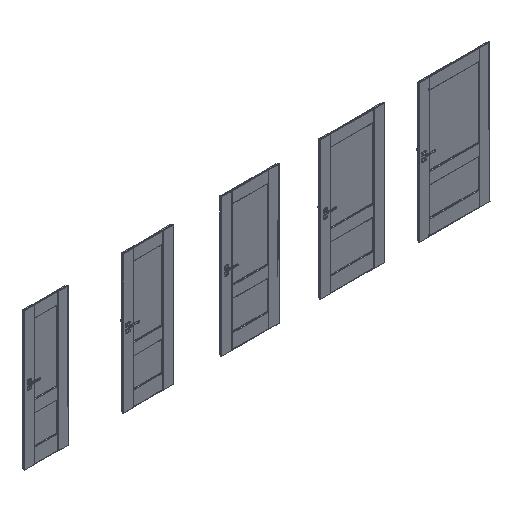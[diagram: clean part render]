
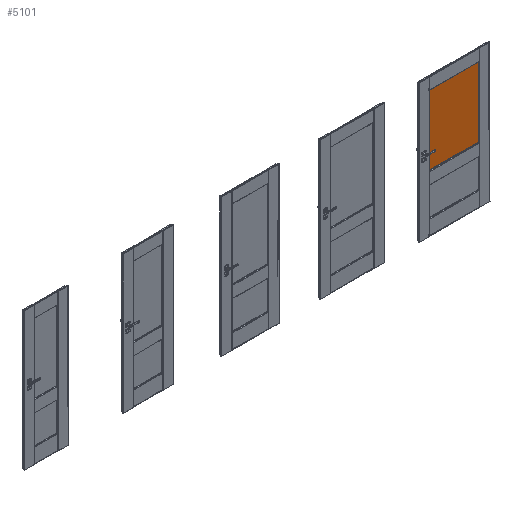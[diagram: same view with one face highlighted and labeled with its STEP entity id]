
A CAD part, isometric view. The second image highlights one B-rep face of the part: STEP entity #5101.
In plain terms, the highlighted planar face has unit normal (0, -1, 0).
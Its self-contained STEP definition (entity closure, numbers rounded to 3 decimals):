
#3231=FACE_OUTER_BOUND('',#9601,.T.);
#5101=ADVANCED_FACE('',(#3231),#6172,.T.);
#6172=PLANE('',#37547);
#9601=EDGE_LOOP('',(#19348,#19349,#19350,#19351,#19352,#19353,#19354,#19355,
#19356,#19357,#19358,#19359));
#19348=ORIENTED_EDGE('',*,*,#27818,.T.);
#19349=ORIENTED_EDGE('',*,*,#27819,.F.);
#19350=ORIENTED_EDGE('',*,*,#27820,.T.);
#19351=ORIENTED_EDGE('',*,*,#27518,.F.);
#19352=ORIENTED_EDGE('',*,*,#27396,.T.);
#19353=ORIENTED_EDGE('',*,*,#27815,.T.);
#19354=ORIENTED_EDGE('',*,*,#27821,.T.);
#19355=ORIENTED_EDGE('',*,*,#27822,.T.);
#19356=ORIENTED_EDGE('',*,*,#27823,.T.);
#19357=ORIENTED_EDGE('',*,*,#27443,.T.);
#19358=ORIENTED_EDGE('',*,*,#27492,.F.);
#19359=ORIENTED_EDGE('',*,*,#27520,.F.);
#22572=VERTEX_POINT('',#63489);
#22573=VERTEX_POINT('',#63491);
#22615=VERTEX_POINT('',#63580);
#22617=VERTEX_POINT('',#63584);
#22662=VERTEX_POINT('',#63685);
#22679=VERTEX_POINT('',#63730);
#22680=VERTEX_POINT('',#63735);
#22851=VERTEX_POINT('',#64415);
#22853=VERTEX_POINT('',#64423);
#22854=VERTEX_POINT('',#64425);
#22855=VERTEX_POINT('',#64428);
#22856=VERTEX_POINT('',#64430);
#27396=EDGE_CURVE('',#22573,#22572,#30855,.T.);
#27443=EDGE_CURVE('',#22615,#22617,#30882,.T.);
#27492=EDGE_CURVE('',#22662,#22617,#30916,.T.);
#27518=EDGE_CURVE('',#22573,#22679,#30932,.T.);
#27520=EDGE_CURVE('',#22680,#22662,#30934,.T.);
#27815=EDGE_CURVE('',#22572,#22851,#31153,.T.);
#27818=EDGE_CURVE('',#22680,#22853,#31156,.T.);
#27819=EDGE_CURVE('',#22854,#22853,#31157,.T.);
#27820=EDGE_CURVE('',#22854,#22679,#31158,.T.);
#27821=EDGE_CURVE('',#22851,#22855,#31159,.T.);
#27822=EDGE_CURVE('',#22855,#22856,#31160,.T.);
#27823=EDGE_CURVE('',#22856,#22615,#31161,.T.);
#30855=LINE('',#63490,#34175);
#30882=LINE('',#63585,#34202);
#30916=LINE('',#63686,#34236);
#30932=LINE('',#63732,#34252);
#30934=LINE('',#63737,#34254);
#31153=LINE('',#64416,#34473);
#31156=LINE('',#64422,#34476);
#31157=LINE('',#64424,#34477);
#31158=LINE('',#64426,#34478);
#31159=LINE('',#64427,#34479);
#31160=LINE('',#64429,#34480);
#31161=LINE('',#64431,#34481);
#34175=VECTOR('',#46016,1.);
#34202=VECTOR('',#46089,1.);
#34236=VECTOR('',#46167,1.);
#34252=VECTOR('',#46209,1.);
#34254=VECTOR('',#46213,1.);
#34473=VECTOR('',#46784,1.);
#34476=VECTOR('',#46791,1.);
#34477=VECTOR('',#46792,1.);
#34478=VECTOR('',#46793,1.);
#34479=VECTOR('',#46794,1.);
#34480=VECTOR('',#46795,1.);
#34481=VECTOR('',#46796,1.);
#37547=AXIS2_PLACEMENT_3D('',#64432,#46797,#46798);
#46016=DIRECTION('',(0.,0.,-1.));
#46089=DIRECTION('',(1.,0.,0.));
#46167=DIRECTION('',(0.,0.,-1.));
#46209=DIRECTION('',(1.,0.,0.));
#46213=DIRECTION('',(1.,0.,0.));
#46784=DIRECTION('',(1.,0.,0.));
#46791=DIRECTION('',(0.,0.,-1.));
#46792=DIRECTION('',(1.,0.,0.));
#46793=DIRECTION('',(0.,0.,1.));
#46794=DIRECTION('',(0.,0.,1.));
#46795=DIRECTION('',(1.,0.,0.));
#46796=DIRECTION('',(0.,0.,-1.));
#46797=DIRECTION('',(0.,-1.,0.));
#46798=DIRECTION('',(0.,0.,-1.));
#63489=CARTESIAN_POINT('',(5629.997,-23.15,816.5));
#63490=CARTESIAN_POINT('',(5629.997,-23.15,0.));
#63491=CARTESIAN_POINT('',(5629.997,-23.15,1866.5));
#63580=CARTESIAN_POINT('',(6369.5,-23.15,816.5));
#63584=CARTESIAN_POINT('',(6370.003,-23.15,816.5));
#63585=CARTESIAN_POINT('',(6017.5,-23.15,816.5));
#63685=CARTESIAN_POINT('',(6370.003,-23.15,1866.5));
#63686=CARTESIAN_POINT('',(6370.003,-23.15,0.));
#63730=CARTESIAN_POINT('',(5630.5,-23.15,1866.5));
#63732=CARTESIAN_POINT('',(5617.5,-23.15,1866.5));
#63735=CARTESIAN_POINT('',(6369.5,-23.15,1866.5));
#63737=CARTESIAN_POINT('',(6017.5,-23.15,1866.5));
#64415=CARTESIAN_POINT('',(5630.5,-23.15,816.5));
#64416=CARTESIAN_POINT('',(5617.5,-23.15,816.5));
#64422=CARTESIAN_POINT('',(6369.5,-23.15,1860.));
#64423=CARTESIAN_POINT('',(6369.5,-23.15,1860.003));
#64424=CARTESIAN_POINT('',(4965.,-23.15,1860.003));
#64425=CARTESIAN_POINT('',(5630.5,-23.15,1860.003));
#64426=CARTESIAN_POINT('',(5630.5,-23.15,1860.));
#64427=CARTESIAN_POINT('',(5630.5,-23.15,653.));
#64428=CARTESIAN_POINT('',(5630.5,-23.15,822.962));
#64429=CARTESIAN_POINT('',(4965.,-23.15,822.962));
#64430=CARTESIAN_POINT('',(6369.5,-23.15,822.962));
#64431=CARTESIAN_POINT('',(6369.5,-23.15,653.));
#64432=CARTESIAN_POINT('',(5817.5,-23.15,1866.5));
